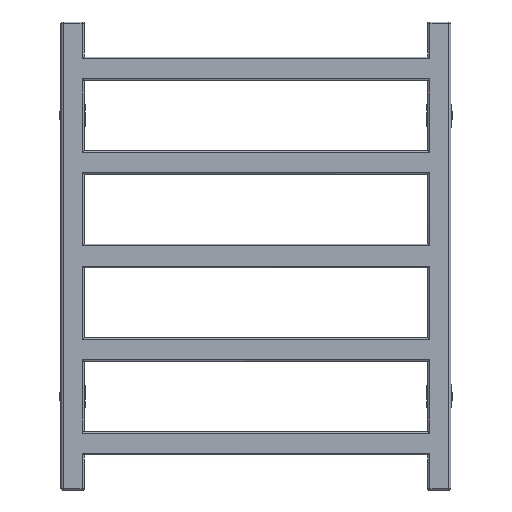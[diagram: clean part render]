
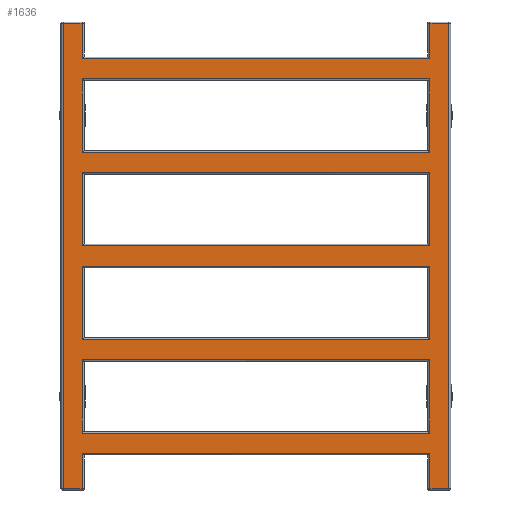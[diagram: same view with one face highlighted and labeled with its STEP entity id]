
A CAD part, front view. The second image highlights one B-rep face of the part: STEP entity #1636.
In plain terms, the highlighted planar face has unit normal (0, -1, 0).
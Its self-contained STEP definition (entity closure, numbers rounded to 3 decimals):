
#881=CARTESIAN_POINT('',(247.,-15.,598.5));
#882=VERTEX_POINT('',#881);
#891=CARTESIAN_POINT('',(223.,-15.,598.5));
#892=VERTEX_POINT('',#891);
#900=CARTESIAN_POINT('',(223.,-15.,598.5));
#901=DIRECTION('',(1.0,0.0,0.0));
#902=VECTOR('',#901,24.);
#903=LINE('',#900,#902);
#904=EDGE_CURVE('',#892,#882,#903,.T.);
#1394=CARTESIAN_POINT('',(247.,-15.,1.5));
#1395=VERTEX_POINT('',#1394);
#1396=CARTESIAN_POINT('',(247.,-15.,1.5));
#1397=DIRECTION('',(0.0,0.0,1.0));
#1398=VECTOR('',#1397,597.0);
#1399=LINE('',#1396,#1398);
#1400=EDGE_CURVE('',#1395,#882,#1399,.T.);
#1413=CARTESIAN_POINT('',(247.,-15.,0.0));
#1414=DIRECTION('',(0.0,-1.0,0.0));
#1415=DIRECTION('',(0.0,0.0,-1.0));
#1416=AXIS2_PLACEMENT_3D('',#1413,#1414,#1415);
#1417=PLANE('',#1416);
#1418=ORIENTED_EDGE('',*,*,#904,.F.);
#1419=CARTESIAN_POINT('',(223.,-15.,553.0));
#1420=VERTEX_POINT('',#1419);
#1421=CARTESIAN_POINT('',(223.,-15.,553.0));
#1422=DIRECTION('',(0.0,0.0,1.0));
#1423=VECTOR('',#1422,45.5);
#1424=LINE('',#1421,#1423);
#1425=EDGE_CURVE('',#1420,#892,#1424,.T.);
#1426=ORIENTED_EDGE('',*,*,#1425,.F.);
#1427=CARTESIAN_POINT('',(-223.,-15.,553.0));
#1428=VERTEX_POINT('',#1427);
#1429=CARTESIAN_POINT('',(223.,-15.,553.0));
#1430=DIRECTION('',(-1.0,0.0,0.0));
#1431=VECTOR('',#1430,446.);
#1432=LINE('',#1429,#1431);
#1433=EDGE_CURVE('',#1420,#1428,#1432,.T.);
#1434=ORIENTED_EDGE('',*,*,#1433,.T.);
#1435=CARTESIAN_POINT('',(-223.,-15.,598.5));
#1436=VERTEX_POINT('',#1435);
#1437=CARTESIAN_POINT('',(-223.,-15.,553.0));
#1438=DIRECTION('',(0.0,0.0,1.0));
#1439=VECTOR('',#1438,45.5);
#1440=LINE('',#1437,#1439);
#1441=EDGE_CURVE('',#1428,#1436,#1440,.T.);
#1442=ORIENTED_EDGE('',*,*,#1441,.T.);
#1443=CARTESIAN_POINT('',(-247.,-15.,598.5));
#1444=VERTEX_POINT('',#1443);
#1445=CARTESIAN_POINT('',(-247.,-15.,598.5));
#1446=DIRECTION('',(1.0,0.0,0.0));
#1447=VECTOR('',#1446,24.);
#1448=LINE('',#1445,#1447);
#1449=EDGE_CURVE('',#1444,#1436,#1448,.T.);
#1450=ORIENTED_EDGE('',*,*,#1449,.F.);
#1451=CARTESIAN_POINT('',(-247.,-15.,1.5));
#1452=VERTEX_POINT('',#1451);
#1453=CARTESIAN_POINT('',(-247.,-15.,1.5));
#1454=DIRECTION('',(0.0,0.0,1.0));
#1455=VECTOR('',#1454,597.0);
#1456=LINE('',#1453,#1455);
#1457=EDGE_CURVE('',#1452,#1444,#1456,.T.);
#1458=ORIENTED_EDGE('',*,*,#1457,.F.);
#1459=CARTESIAN_POINT('',(-223.,-15.,1.5));
#1460=VERTEX_POINT('',#1459);
#1461=CARTESIAN_POINT('',(-223.0,-15.,1.5));
#1462=DIRECTION('',(-1.0,0.0,0.0));
#1463=VECTOR('',#1462,24.);
#1464=LINE('',#1461,#1463);
#1465=EDGE_CURVE('',#1460,#1452,#1464,.T.);
#1466=ORIENTED_EDGE('',*,*,#1465,.F.);
#1467=CARTESIAN_POINT('',(-223.,-15.,47.));
#1468=VERTEX_POINT('',#1467);
#1469=CARTESIAN_POINT('',(-223.,-15.,1.5));
#1470=DIRECTION('',(0.0,0.0,1.0));
#1471=VECTOR('',#1470,45.5);
#1472=LINE('',#1469,#1471);
#1473=EDGE_CURVE('',#1460,#1468,#1472,.T.);
#1474=ORIENTED_EDGE('',*,*,#1473,.T.);
#1475=CARTESIAN_POINT('',(223.,-15.,47.));
#1476=VERTEX_POINT('',#1475);
#1477=CARTESIAN_POINT('',(-223.,-15.,47.));
#1478=DIRECTION('',(1.0,0.0,0.0));
#1479=VECTOR('',#1478,446.);
#1480=LINE('',#1477,#1479);
#1481=EDGE_CURVE('',#1468,#1476,#1480,.T.);
#1482=ORIENTED_EDGE('',*,*,#1481,.T.);
#1483=CARTESIAN_POINT('',(223.,-15.,1.5));
#1484=VERTEX_POINT('',#1483);
#1485=CARTESIAN_POINT('',(223.,-15.,1.5));
#1486=DIRECTION('',(0.0,0.0,1.0));
#1487=VECTOR('',#1486,45.5);
#1488=LINE('',#1485,#1487);
#1489=EDGE_CURVE('',#1484,#1476,#1488,.T.);
#1490=ORIENTED_EDGE('',*,*,#1489,.F.);
#1491=CARTESIAN_POINT('',(247.,-15.,1.5));
#1492=DIRECTION('',(-1.0,0.0,0.0));
#1493=VECTOR('',#1492,24.);
#1494=LINE('',#1491,#1493);
#1495=EDGE_CURVE('',#1395,#1484,#1494,.T.);
#1496=ORIENTED_EDGE('',*,*,#1495,.F.);
#1497=ORIENTED_EDGE('',*,*,#1400,.T.);
#1498=EDGE_LOOP('',(#1418,#1426,#1434,#1442,#1450,#1458,#1466,#1474,#1482,#1490,#1496,#1497));
#1499=FACE_OUTER_BOUND('',#1498,.T.);
#1500=CARTESIAN_POINT('',(-223.,-15.,73.));
#1501=VERTEX_POINT('',#1500);
#1502=CARTESIAN_POINT('',(223.,-15.,73.));
#1503=VERTEX_POINT('',#1502);
#1504=CARTESIAN_POINT('',(-223.,-15.,73.));
#1505=DIRECTION('',(1.0,0.0,0.0));
#1506=VECTOR('',#1505,446.);
#1507=LINE('',#1504,#1506);
#1508=EDGE_CURVE('',#1501,#1503,#1507,.T.);
#1509=ORIENTED_EDGE('',*,*,#1508,.F.);
#1510=CARTESIAN_POINT('',(-223.,-15.,167.));
#1511=VERTEX_POINT('',#1510);
#1512=CARTESIAN_POINT('',(-223.,-15.,73.));
#1513=DIRECTION('',(0.0,0.0,1.0));
#1514=VECTOR('',#1513,94.);
#1515=LINE('',#1512,#1514);
#1516=EDGE_CURVE('',#1501,#1511,#1515,.T.);
#1517=ORIENTED_EDGE('',*,*,#1516,.T.);
#1518=CARTESIAN_POINT('',(223.,-15.,167.));
#1519=VERTEX_POINT('',#1518);
#1520=CARTESIAN_POINT('',(223.,-15.,167.));
#1521=DIRECTION('',(-1.0,0.0,0.0));
#1522=VECTOR('',#1521,446.);
#1523=LINE('',#1520,#1522);
#1524=EDGE_CURVE('',#1519,#1511,#1523,.T.);
#1525=ORIENTED_EDGE('',*,*,#1524,.F.);
#1526=CARTESIAN_POINT('',(223.,-15.,73.));
#1527=DIRECTION('',(0.0,0.0,1.0));
#1528=VECTOR('',#1527,94.);
#1529=LINE('',#1526,#1528);
#1530=EDGE_CURVE('',#1503,#1519,#1529,.T.);
#1531=ORIENTED_EDGE('',*,*,#1530,.F.);
#1532=EDGE_LOOP('',(#1509,#1517,#1525,#1531));
#1533=FACE_BOUND('',#1532,.T.);
#1534=CARTESIAN_POINT('',(223.,-15.,433.));
#1535=VERTEX_POINT('',#1534);
#1536=CARTESIAN_POINT('',(223.,-15.,527.0));
#1537=VERTEX_POINT('',#1536);
#1538=CARTESIAN_POINT('',(223.,-15.,433.));
#1539=DIRECTION('',(0.0,0.0,1.0));
#1540=VECTOR('',#1539,94.);
#1541=LINE('',#1538,#1540);
#1542=EDGE_CURVE('',#1535,#1537,#1541,.T.);
#1543=ORIENTED_EDGE('',*,*,#1542,.F.);
#1544=CARTESIAN_POINT('',(-223.,-15.,433.));
#1545=VERTEX_POINT('',#1544);
#1546=CARTESIAN_POINT('',(223.,-15.,433.0));
#1547=DIRECTION('',(-1.0,0.0,0.0));
#1548=VECTOR('',#1547,446.);
#1549=LINE('',#1546,#1548);
#1550=EDGE_CURVE('',#1535,#1545,#1549,.T.);
#1551=ORIENTED_EDGE('',*,*,#1550,.T.);
#1552=CARTESIAN_POINT('',(-223.,-15.,527.0));
#1553=VERTEX_POINT('',#1552);
#1554=CARTESIAN_POINT('',(-223.,-15.,433.));
#1555=DIRECTION('',(0.0,0.0,1.0));
#1556=VECTOR('',#1555,94.);
#1557=LINE('',#1554,#1556);
#1558=EDGE_CURVE('',#1545,#1553,#1557,.T.);
#1559=ORIENTED_EDGE('',*,*,#1558,.T.);
#1560=CARTESIAN_POINT('',(223.,-15.,527.0));
#1561=DIRECTION('',(-1.0,0.0,0.0));
#1562=VECTOR('',#1561,446.);
#1563=LINE('',#1560,#1562);
#1564=EDGE_CURVE('',#1537,#1553,#1563,.T.);
#1565=ORIENTED_EDGE('',*,*,#1564,.F.);
#1566=EDGE_LOOP('',(#1543,#1551,#1559,#1565));
#1567=FACE_BOUND('',#1566,.T.);
#1568=CARTESIAN_POINT('',(223.,-15.,313.0));
#1569=VERTEX_POINT('',#1568);
#1570=CARTESIAN_POINT('',(223.,-15.,407.0));
#1571=VERTEX_POINT('',#1570);
#1572=CARTESIAN_POINT('',(223.,-15.,313.0));
#1573=DIRECTION('',(0.0,0.0,1.0));
#1574=VECTOR('',#1573,94.0);
#1575=LINE('',#1572,#1574);
#1576=EDGE_CURVE('',#1569,#1571,#1575,.T.);
#1577=ORIENTED_EDGE('',*,*,#1576,.F.);
#1578=CARTESIAN_POINT('',(-223.,-15.,313.0));
#1579=VERTEX_POINT('',#1578);
#1580=CARTESIAN_POINT('',(223.,-15.,313.0));
#1581=DIRECTION('',(-1.0,0.0,0.0));
#1582=VECTOR('',#1581,446.);
#1583=LINE('',#1580,#1582);
#1584=EDGE_CURVE('',#1569,#1579,#1583,.T.);
#1585=ORIENTED_EDGE('',*,*,#1584,.T.);
#1586=CARTESIAN_POINT('',(-223.,-15.,407.0));
#1587=VERTEX_POINT('',#1586);
#1588=CARTESIAN_POINT('',(-223.,-15.,313.0));
#1589=DIRECTION('',(0.0,0.0,1.0));
#1590=VECTOR('',#1589,94.0);
#1591=LINE('',#1588,#1590);
#1592=EDGE_CURVE('',#1579,#1587,#1591,.T.);
#1593=ORIENTED_EDGE('',*,*,#1592,.T.);
#1594=CARTESIAN_POINT('',(223.,-15.,407.0));
#1595=DIRECTION('',(-1.0,0.0,0.0));
#1596=VECTOR('',#1595,446.);
#1597=LINE('',#1594,#1596);
#1598=EDGE_CURVE('',#1571,#1587,#1597,.T.);
#1599=ORIENTED_EDGE('',*,*,#1598,.F.);
#1600=EDGE_LOOP('',(#1577,#1585,#1593,#1599));
#1601=FACE_BOUND('',#1600,.T.);
#1602=CARTESIAN_POINT('',(223.,-15.,193.));
#1603=VERTEX_POINT('',#1602);
#1604=CARTESIAN_POINT('',(223.,-15.,287.0));
#1605=VERTEX_POINT('',#1604);
#1606=CARTESIAN_POINT('',(223.,-15.,193.));
#1607=DIRECTION('',(0.0,0.0,1.0));
#1608=VECTOR('',#1607,94.);
#1609=LINE('',#1606,#1608);
#1610=EDGE_CURVE('',#1603,#1605,#1609,.T.);
#1611=ORIENTED_EDGE('',*,*,#1610,.F.);
#1612=CARTESIAN_POINT('',(-223.,-15.,193.));
#1613=VERTEX_POINT('',#1612);
#1614=CARTESIAN_POINT('',(223.,-15.,193.));
#1615=DIRECTION('',(-1.0,0.0,0.0));
#1616=VECTOR('',#1615,446.);
#1617=LINE('',#1614,#1616);
#1618=EDGE_CURVE('',#1603,#1613,#1617,.T.);
#1619=ORIENTED_EDGE('',*,*,#1618,.T.);
#1620=CARTESIAN_POINT('',(-223.,-15.,287.0));
#1621=VERTEX_POINT('',#1620);
#1622=CARTESIAN_POINT('',(-223.,-15.,193.));
#1623=DIRECTION('',(0.0,0.0,1.0));
#1624=VECTOR('',#1623,94.);
#1625=LINE('',#1622,#1624);
#1626=EDGE_CURVE('',#1613,#1621,#1625,.T.);
#1627=ORIENTED_EDGE('',*,*,#1626,.T.);
#1628=CARTESIAN_POINT('',(223.,-15.,287.0));
#1629=DIRECTION('',(-1.0,0.0,0.0));
#1630=VECTOR('',#1629,446.);
#1631=LINE('',#1628,#1630);
#1632=EDGE_CURVE('',#1605,#1621,#1631,.T.);
#1633=ORIENTED_EDGE('',*,*,#1632,.F.);
#1634=EDGE_LOOP('',(#1611,#1619,#1627,#1633));
#1635=FACE_BOUND('',#1634,.T.);
#1636=ADVANCED_FACE('',(#1499,#1533,#1567,#1601,#1635),#1417,.T.);
